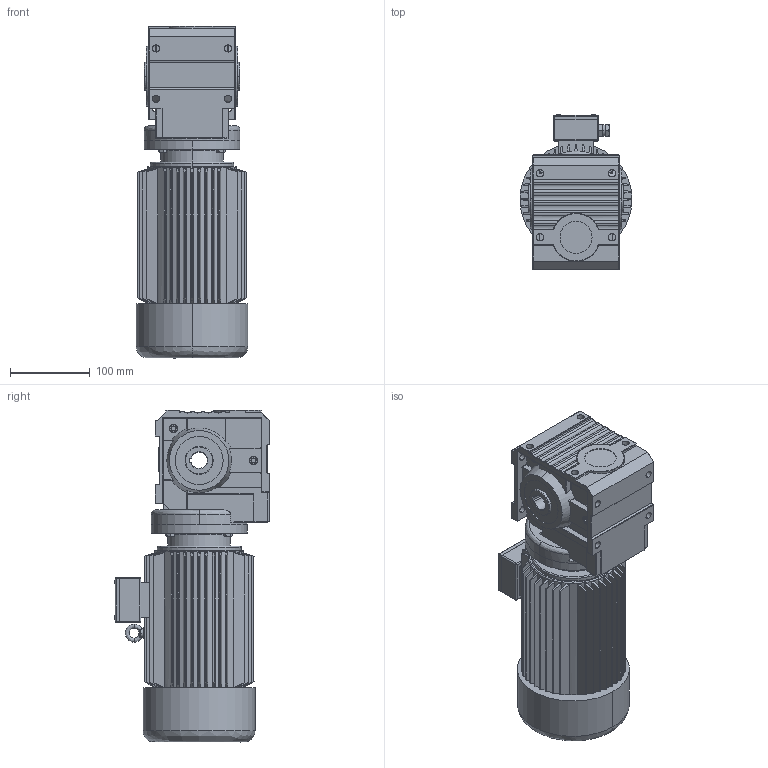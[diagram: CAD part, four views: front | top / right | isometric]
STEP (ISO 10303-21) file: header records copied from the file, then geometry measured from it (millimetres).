
FILE_DESCRIPTION (( 'STEP AP214' ), '1' );
FILE_NAME ('MSW37.step', '2020-06-27T03:37:29', ( '' ), ( '' ), 'SwSTEP 2.0', 'SolidWorks 2016', '' );
FILE_SCHEMA (( 'AUTOMOTIVE_DESIGN' ));
Length unit declared in the file: millimetre
Products named in the file (1): MSW37
Bounding box: 140 x 193.81 x 415 mm (x, y, z)
Volume: 5217663.3 mm3; surface area: 439502.6 mm2
Topology: 3 solids, 3 shells, 1162 faces, 2903 edges, 1770 vertices
Faces by surface type: plane 478, cylinder 299, bspline 223, cone 162
Entity records: 52507 total; most frequent: CARTESIAN_POINT 14089, ORIENTED_EDGE 5740, DIRECTION 4712, EDGE_CURVE 2870, VERTEX_POINT 1770, AXIS2_PLACEMENT_3D 1670, LINE 1372, VECTOR 1372
